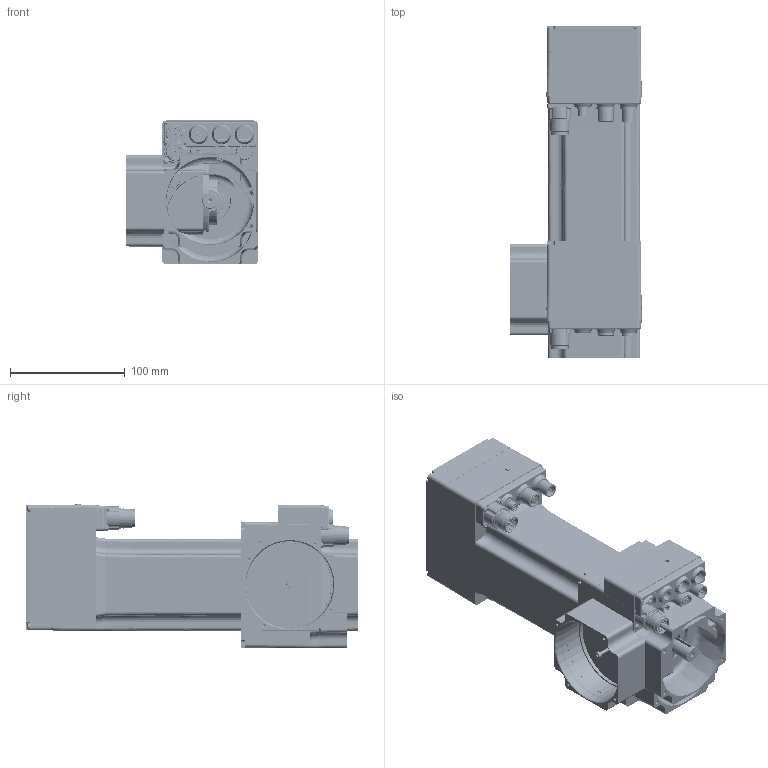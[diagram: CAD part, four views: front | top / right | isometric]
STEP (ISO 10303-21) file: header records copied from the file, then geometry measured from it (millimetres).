
FILE_DESCRIPTION( ( 'Unknown' ), '1' );
FILE_NAME( 'C:/Users/dotti/Desktop/Q0B220/Q0B220 1,5.stp', 'Unknown', ( 'Unknown' ), ( 'Unknown' ), 'PSStep 14.0', 'Unknown', ' ' );
FILE_SCHEMA( ( 'AUTOMOTIVE_DESIGN { 1 0 10303 214 1 1 1 1 }' ) );
Length unit declared in the file: millimetre
Products named in the file (46): Assem1; T00273; 005117000974; N54236; CN M23 PAN-POT BEGA 906 4+5p; VECST-8112 M  2,5 x 12; 005117000476; G00030; N33250; LI-PIA   5x5 x 25; CUSC_20_42_12_6004_ZZ; CUSC_15_32_9_6002_ZZ; a-ela  20; Anello-elastico-chiuso  42; 003155001098; LI-PIA   5x5 x 18; N09285; Anello-elastico-chiuso  32; Vite a brugola testa cil 8,8 -  M  3 x 25; Vite a brugola testa cil 8,8 -  M  3 x 25-oa0; Vite a brugola testa cil 8,8 -  M  3 x 25-oa1; Vite a brugola testa cil 8,8 -  M  3 x 25-oa2; Vite a brugola testa cil 8,8 -  M  3 x 40; Vite a brugola testa cil 8,8 -  M  3 x 40-oa3; Vite a brugola testa cil 8,8 -  M  3 x 40-oa4; Vite a brugola testa cil 8,8 -  M  3 x 40-oa5; 003016000054; N35217; VECST-8112 M  3 x 25; N01H22; N54239
Bounding box: 114.5 x 289.13 x 126.21 mm (x, y, z)
Volume: 1223919.6 mm3; surface area: 610390.8 mm2
Topology: 104 solids, 108 shells, 7563 faces, 20507 edges, 13449 vertices
Faces by surface type: plane 4105, cylinder 2605, cone 300, bspline 283, torus 217, sphere 53
Full cylindrical faces by diameter (mm): 1 x39, 1.5 x42, 1.7 x30, 2 x4, 2.4 x24, 2.459 x62, 2.5 x17, 2.7 x12, 3 x21, 3.242 x4, 3.5 x48, 4 x5, 4.134 x2, 4.2 x2, 5 x11, 5.5 x18, 6 x34, 8 x17, 8.5 x9, 8.75 x3, 9 x6, 10 x3, 11 x15, 11.9 x6, 12 x11, 14 x10, 14.4 x3, 14.5 x3, 15 x4, 15.01 x2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
Entity records: 108192 total; most frequent: CARTESIAN_POINT 27748, ORIENTED_EDGE 13714, DIRECTION 13689, EDGE_CURVE 6857, AXIS2_PLACEMENT_3D 4948, VERTEX_POINT 4702, LINE 3793, VECTOR 3793
